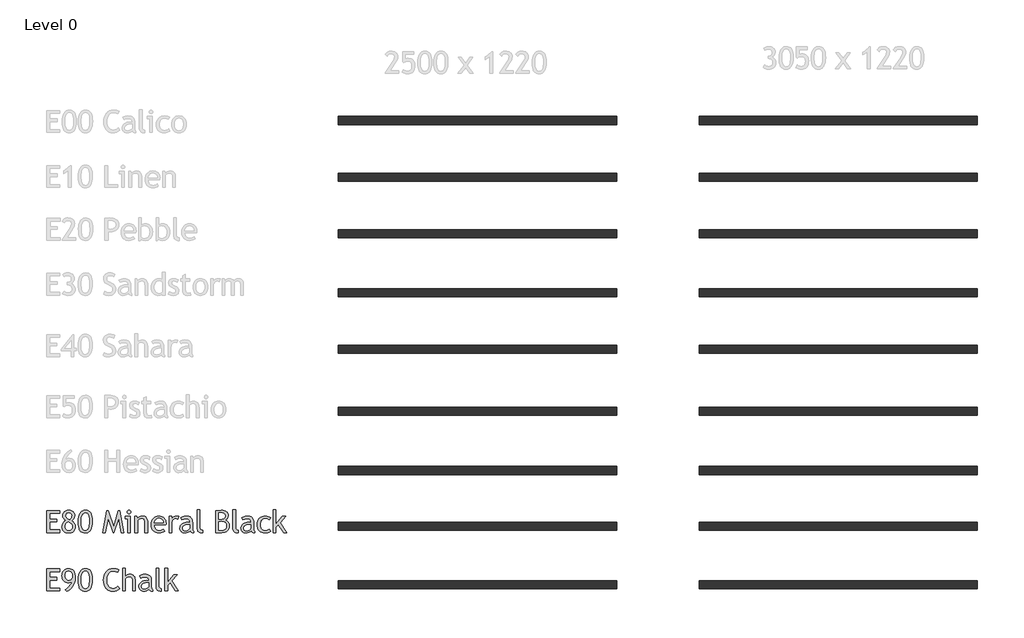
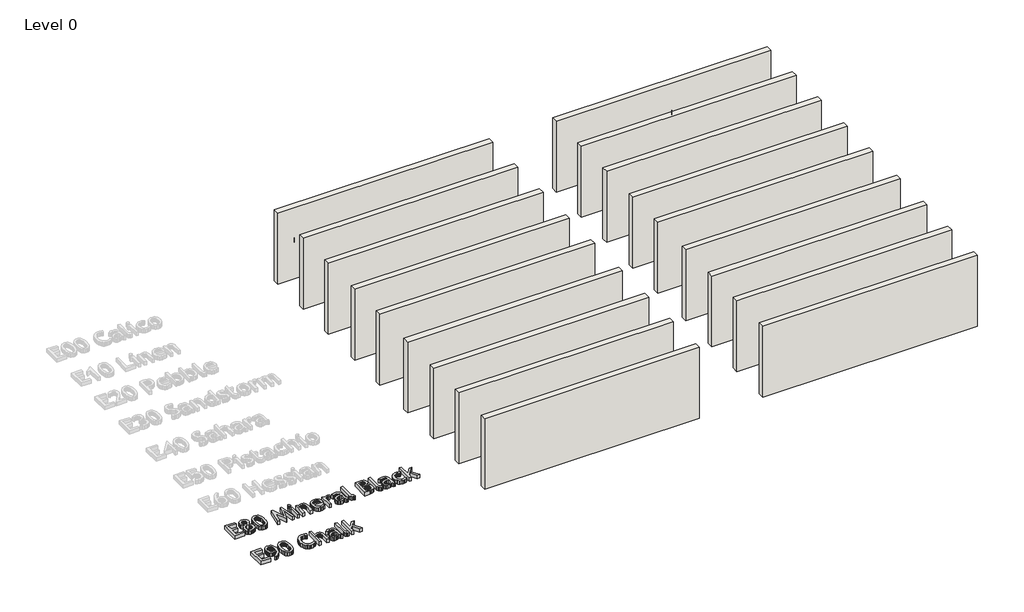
# One storey, part 1 of 5: 18 walls, 2 proxies.
"""IFC4 building model written with IfcOpenShell, lengths in millimetres."""

from ifc_helpers import new_model, si_unit, origin, origin_with_axes, place, context, project, spatial, polyline, outline, extrude, element, save

model = new_model("IFC4")

# Units and contexts
model_context = context("Model", 3, world=origin())
ifc_project = project(units=[si_unit("LENGTHUNIT", "METRE", prefix="MILLI")], contexts=[model_context])

# Site, building, storey
site = spatial("IfcSite", under=ifc_project)
building = spatial("IfcBuilding", under=site)
storey = spatial("IfcBuildingStorey", under=building, Name="Level 0", Elevation=0.0)

# Proxies
placement = place(None, origin())
element("IfcBuildingElementProxy", 1, Name="600mm Arial", ObjectType="600mm Arial", at=placement, inside=storey, context=model_context, shape_type="SweptSolid", body=[
    extrude(outline(polyline([(-18103.2260811, -7586.1895056), (-18103.2260811, -7764.1556073), (-17877.8023522, -7764.1556073), (-17877.8023522, -7847.2064547), (-18103.2260811, -7847.2064547), (-18103.2260811, -8096.3589971), (-17794.7515048, -8096.3589971), (-17794.7515048, -8179.4098446), (-18198.1413353, -8179.4098446), (-18198.1413353, -7503.1386581), (-17794.7515048, -7503.1386581), (-17794.7515048, -7586.1895056), (-18103.2260811, -7586.1895056)])), origin_with_axes(), (0.0, 0.0, 1.0), 150.0),
    extrude(outline(polyline([(-17569.327776, -8191.2742513), (-17616.7854031, -8143.8166242), (-17594.9625416, -8131.0948287), (-17568.6094232, -8108.8722386), (-17502.3124158, -8035.9246751), (-17468.8684606, -7992.5570241), (-17443.894116, -7954.4032238), (-17427.3893822, -7921.4632741), (-17419.354259, -7893.7371751), (-17440.1980752, -7909.7147307), (-17464.9117272, -7921.1272704), (-17493.4952151, -7927.9747942), (-17525.9485387, -7930.2573022), (-17568.499353, -7926.6481589), (-17606.6126012, -7915.8207291), (-17640.2882831, -7897.7750127), (-17669.5263989, -7872.5110098), (-17693.1683149, -7840.9208681), (-17710.0553978, -7803.8967354), (-17720.1876475, -7761.4386118), (-17723.5650641, -7713.5464971), (-17720.1065432, -7665.9324545), (-17709.7309804, -7623.1962587), (-17692.4383758, -7585.33791), (-17668.2287294, -7552.3574081), (-17638.8052323, -7525.633527), (-17605.8710758, -7506.5450405), (-17569.4262598, -7495.0919486), (-17529.4707844, -7491.2742513), (-17477.6364194, -7495.8856126), (-17432.713303, -7509.7196962), (-17394.7014353, -7532.7765024), (-17363.6008162, -7565.056031), (-17339.4114459, -7606.5582821), (-17322.1333242, -7657.2832556), (-17311.7664512, -7717.2309515), (-17308.3108268, -7786.40137), (-17313.542057, -7848.1275683), (-17329.2357474, -7910.5837058), (-17355.3918981, -7973.7697823), (-17392.010509, -8037.6857979), (-17434.480219, -8095.4958152), (-17478.1896669, -8140.3638965), (-17523.1388525, -8172.2900418), (-17569.327776, -8191.2742513)]), holes=[polyline([(-17403.2260811, -7716.1418361), (-17405.0741015, -7682.9035383), (-17410.6181626, -7654.0970135), (-17419.8582646, -7629.7222618), (-17432.7944073, -7609.7792831), (-17449.4265909, -7594.2680775), (-17469.7548152, -7583.1886449), (-17493.7790803, -7576.5409853), (-17521.4993861, -7574.3250988), (-17545.031232, -7576.6365726), (-17565.9445662, -7583.5709939), (-17584.2393888, -7595.1283628), (-17599.9156997, -7611.3086793), (-17612.4868729, -7631.2777272), (-17621.4662823, -7654.2012905), (-17626.853928, -7680.0793692), (-17628.6498099, -7708.9119632), (-17626.749651, -7738.8394658), (-17621.0491743, -7765.5923128), (-17611.5483798, -7789.170504), (-17598.2472675, -7809.5740395), (-17581.9568808, -7826.0382211), (-17563.4882633, -7837.7983509), (-17542.8414147, -7844.8544288), (-17520.0163353, -7847.2064547), (-17492.6436195, -7845.1585701), (-17468.9205991, -7839.0149161), (-17448.8472741, -7828.7754927), (-17432.4236446, -7814.4403001), (-17419.6497106, -7796.0093381), (-17410.5254719, -7773.4826067), (-17405.0509288, -7746.8601061), (-17403.2260811, -7716.1418361)])]), origin_with_axes(), (0.0, 0.0, 1.0), 150.0),
    extrude(outline(polyline([(-17225.2599794, -7821.9945903), (-17221.5581454, -7752.239062), (-17210.4526436, -7689.2383668), (-17191.9434738, -7632.9925048), (-17166.0306361, -7583.5014759), (-17133.4093107, -7543.1520652), (-17114.8436575, -7527.3005109), (-17094.7746775, -7514.3310575), (-17073.2023705, -7504.2437048), (-17050.1267365, -7497.0384529), (-16999.4654878, -7491.2742513), (-16949.5747304, -7496.0825802), (-16906.3113565, -7510.507567), (-16869.675366, -7534.5492116), (-16839.666759, -7568.207514), (-16816.3087082, -7613.8460866), (-16799.6243861, -7673.8285416), (-16789.6137929, -7748.154879), (-16786.2769285, -7836.8250988), (-16789.7760016, -7914.9285813), (-16800.2732209, -7984.2496221), (-16817.7685864, -8044.7882211), (-16842.262098, -8096.5443784), (-16873.4872701, -8137.9886978), (-16891.5242968, -8154.2703947), (-16911.1776171, -8167.5917831), (-16932.4472311, -8177.952863), (-16955.3331388, -8185.3536343), (-17005.9538353, -8191.2742513), (-17056.6382566, -8186.4948882), (-17100.7995715, -8172.156799), (-17138.4377799, -8148.2599836), (-17169.5528819, -8114.804442), (-17182.6092329, -8093.5015173), (-17193.924737, -8067.8276478), (-17211.333205, -8003.3670744), (-17221.7782858, -7921.4227219), (-17225.2599794, -7821.9945903)]), holes=[polyline([(-17130.3447251, -7830.5221327), (-17128.4996013, -7895.6083681), (-17122.9642299, -7952.0164388), (-17113.7386109, -7999.7463448), (-17100.8227442, -8038.7980861), (-17084.2166299, -8069.1716626), (-17063.920268, -8090.8670744), (-17039.9336585, -8103.8843215), (-17012.2568014, -8108.2234039), (-16980.7477641, -8104.3767407), (-16953.6994656, -8092.8367513), (-16931.111906, -8073.6034357), (-16912.9850853, -8046.6767937), (-16899.0756904, -8010.1219076), (-16889.1404084, -7962.0038594), (-16883.1792392, -7902.3226491), (-16881.1921828, -7831.0782768), (-16884.2509751, -7738.9669155), (-16893.4273522, -7675.0798657), (-16909.4164942, -7631.3762111), (-16920.2265445, -7614.0778133), (-16932.9135811, -7599.8150352), (-16947.4428448, -7588.663188), (-16963.7795768, -7580.6975829), (-16981.923777, -7575.9182198), (-17001.8754455, -7574.3250988), (-17031.9854329, -7578.3281774), (-17058.0807553, -7590.3374134), (-17080.1614128, -7610.3528067), (-17098.2274052, -7638.3743573), (-17112.2787327, -7674.4020652), (-17122.3153951, -7718.4359304), (-17128.3373926, -7770.4759529), (-17130.3447251, -7830.5221327)])]), origin_with_axes(), (0.0, 0.0, 1.0), 150.0),
    extrude(outline(polyline([(-15967.6328607, -7526.8674717), (-15999.7038353, -7606.210692), (-16025.8889518, -7592.260745), (-16058.6551065, -7582.2964971), (-16098.0022993, -7576.3179484), (-16143.9305302, -7574.3250988), (-16187.7152892, -7579.1218414), (-16226.9350323, -7593.5120691), (-16261.5897596, -7617.4957821), (-16291.6794709, -7651.0729801), (-16316.0107739, -7692.2160548), (-16333.390276, -7738.8973975), (-16343.8179772, -7791.1170082), (-16347.2938777, -7848.8748869), (-16343.7716319, -7903.9737018), (-16333.2048946, -7953.5921804), (-16315.5936658, -7997.7303226), (-16290.9379455, -8036.3881284), (-16260.7091981, -8067.8160614), (-16226.3788883, -8090.264585), (-16187.9470159, -8103.7336992), (-16145.4135811, -8108.2234039), (-16099.5664545, -8103.7858377), (-16059.3502866, -8090.473139), (-16024.7650774, -8068.285308), (-15995.8108268, -8037.2223446), (-15943.9040472, -8108.2234039), (-15987.5265975, -8144.5581496), (-16037.0118332, -8170.5115395), (-16092.3597543, -8186.0835734), (-16153.5703607, -8191.2742513), (-16217.1156136, -8185.2957026), (-16246.2161416, -8177.8225167), (-16273.5352707, -8167.3600564), (-16299.0730007, -8153.9083218), (-16322.8293319, -8137.4673128), (-16344.804264, -8118.0370294), (-16364.9977972, -8095.6174717), (-16398.7777561, -8043.9771777), (-16422.9062982, -7984.7130755), (-16437.3834235, -7917.825165), (-16442.2091319, -7843.3134462), (-16437.0126608, -7770.7829907), (-16421.4232474, -7704.648192), (-16395.4408917, -7644.9090501), (-16359.0655938, -7591.5655649), (-16337.5222526, -7568.0597883), (-16314.4639982, -7547.6881152), (-16289.8908305, -7530.4505457), (-16263.8027495, -7516.3470797), (-16236.1997553, -7505.3777173), (-16207.0818477, -7497.5424584), (-16176.449027, -7492.8413031), (-16144.3012929, -7491.2742513), (-16090.9230487, -7493.4988276), (-16043.685562, -7500.1725564), (-16002.5888326, -7511.2954378), (-15967.6328607, -7526.8674717)])), origin_with_axes(), (0.0, 0.0, 1.0), 150.0),
    extrude(outline(polyline([(-15540.5142167, -8179.4098446), (-15540.5142167, -7862.0369632), (-15542.2811327, -7835.2667368), (-15547.5818808, -7811.497371), (-15556.4164611, -7790.728866), (-15568.7848734, -7772.9612217), (-15584.3627005, -7758.7274094), (-15602.8255249, -7748.5604007), (-15624.1733467, -7742.4601955), (-15648.4061658, -7740.4267937), (-15681.6126012, -7745.2003636), (-15714.8653819, -7759.5210734), (-15744.2714995, -7780.1910946), (-15765.9379455, -7804.0125988), (-15765.9379455, -8179.4098446), (-15848.9887929, -8179.4098446), (-15848.9887929, -7479.4098446), (-15765.9379455, -7479.4098446), (-15765.9379455, -7733.1969208), (-15742.7189306, -7708.1704378), (-15708.6551065, -7687.5931073), (-15668.5200429, -7673.8285416), (-15627.0873099, -7669.240353), (-15589.5533785, -7672.5134926), (-15556.2948046, -7682.3329113), (-15527.3115882, -7698.6986091), (-15502.6037294, -7721.6105861), (-15482.8548218, -7750.1882807), (-15468.7484592, -7783.5511316), (-15460.2846417, -7821.6991388), (-15457.4633692, -7864.6323022), (-15457.4633692, -8179.4098446), (-15540.5142167, -8179.4098446)])), origin_with_axes(), (0.0, 0.0, 1.0), 150.0),
    extrude(outline(polyline([(-15034.423115, -8120.0878107), (-15065.3818014, -8151.2318784), (-15103.5703607, -8173.4776412), (-15148.9887929, -8186.8250988), (-15201.637098, -8191.2742513), (-15230.8462479, -8188.5862217), (-15258.0393755, -8180.5221327), (-15283.216481, -8167.0819844), (-15306.3775641, -8148.2657768), (-15325.7615021, -8125.4522836), (-15339.6071722, -8100.0202789), (-15347.9145742, -8071.9697625), (-15350.6837082, -8041.3007344), (-15346.4025575, -8004.5025352), (-15333.5591054, -7970.6704378), (-15312.153352, -7939.804442), (-15282.1852972, -7911.9045479), (-15245.5782725, -7888.7898101), (-15204.2556097, -7872.2792831), (-15158.2173085, -7862.3729669), (-15107.4633692, -7859.0708615), (-15076.7827548, -7862.0369632), (-15042.2091319, -7870.9352683), (-15043.9702548, -7843.1280649), (-15049.2536234, -7819.0284886), (-15058.0592378, -7798.6365395), (-15070.387098, -7781.9522174), (-15086.2372039, -7768.9755225), (-15105.6095556, -7759.7064547), (-15128.5041531, -7754.145014), (-15154.9209963, -7752.2912005), (-15195.7048946, -7754.5157768), (-15231.4834963, -7761.1895056), (-15262.2568014, -7772.3123869), (-15288.0248099, -7787.8844208), (-15326.9548946, -7716.6979801), (-15296.4596616, -7698.6001253), (-15256.1392167, -7683.2366454), (-15211.8794179, -7672.7394261), (-15169.5661234, -7669.240353), (-15118.1054177, -7672.3396976), (-15074.2105885, -7681.6377312), (-15037.8816359, -7697.1344539), (-15009.1185599, -7718.8298657), (-14987.2609394, -7747.2685244), (-14971.6483533, -7782.9949876), (-14962.2808017, -7826.0092553), (-14959.1582844, -7876.3113276), (-14959.1582844, -8055.9458615), (-14956.9337082, -8086.1166772), (-14950.2599794, -8110.8187429), (-14939.137098, -8130.0520585), (-14923.5650641, -8143.8166242), (-14923.5650641, -8191.2742513), (-14967.4772728, -8187.1495162), (-14998.7372039, -8174.7753107), (-15020.1255779, -8152.8539653), (-15034.423115, -8120.0878107)]), holes=[polyline([(-15042.2091319, -7930.2573022), (-15105.0534116, -7930.2573022), (-15139.2794444, -7932.3660151), (-15170.2149582, -7938.6921539), (-15197.8599529, -7949.2357185), (-15222.2144285, -7963.996709), (-15242.0849926, -7981.6426968), (-15256.2782527, -8000.8412534), (-15264.7942087, -8021.592379), (-15267.6328607, -8043.8960734), (-15266.0976714, -8061.7535118), (-15261.4921033, -8077.2299584), (-15253.8161565, -8090.3254133), (-15243.0698311, -8101.0398763), (-15229.2531269, -8109.3733476), (-15212.366044, -8115.3258271), (-15169.3807421, -8120.0878107), (-15134.5290472, -8115.6386581), (-15101.7165472, -8102.2912005), (-15070.9432421, -8080.0454378), (-15042.2091319, -8048.90137), (-15042.2091319, -7930.2573022)])]), origin_with_axes(), (0.0, 0.0, 1.0), 150.0),
    extrude(outline(polyline([(-14816.7854031, -8040.9299717), (-14816.7854031, -7479.4098446), (-14733.7345556, -7479.4098446), (-14733.7345556, -8022.7625988), (-14727.9877336, -8058.2399558), (-14720.8042061, -8072.8329444), (-14710.7472675, -8085.3288064), (-14698.373062, -8095.3451928), (-14684.2377336, -8102.4997545), (-14650.6837082, -8108.2234039), (-14650.6837082, -8191.2742513), (-14689.6137929, -8188.925122), (-14723.3531997, -8181.8777339), (-14751.9019285, -8170.132087), (-14775.2599794, -8153.6881814), (-14793.4273522, -8132.5460171), (-14806.4040472, -8106.705594), (-14814.1900641, -8076.1669122), (-14816.7854031, -8040.9299717)])), origin_with_axes(), (0.0, 0.0, 1.0), 150.0),
    extrude(outline(polyline([(-14223.5650641, -8179.4098446), (-14382.9930302, -7930.0719208), (-14460.8531997, -8009.6005225), (-14460.8531997, -8179.4098446), (-14543.9040472, -8179.4098446), (-14543.9040472, -7479.4098446), (-14460.8531997, -7479.4098446), (-14460.8531997, -7914.6852683), (-14271.0226912, -7681.1047598), (-14164.2430302, -7681.1047598), (-14325.1540472, -7870.3791242), (-14128.6498099, -8179.4098446), (-14223.5650641, -8179.4098446)])), origin_with_axes(), (0.0, 0.0, 1.0), 150.0),
])
element("IfcBuildingElementProxy", 2, Name="600mm Arial", ObjectType="600mm Arial", at=placement, inside=storey, context=model_context, shape_type="SweptSolid", body=[
    extrude(outline(polyline([(-18103.2260811, -5786.1895056), (-18103.2260811, -5964.1556073), (-17877.8023522, -5964.1556073), (-17877.8023522, -6047.2064547), (-18103.2260811, -6047.2064547), (-18103.2260811, -6296.3589971), (-17794.7515048, -6296.3589971), (-17794.7515048, -6379.4098446), (-18198.1413353, -6379.4098446), (-18198.1413353, -5703.1386581), (-17794.7515048, -5703.1386581), (-17794.7515048, -5786.1895056), (-18103.2260811, -5786.1895056)])), origin_with_axes(), (0.0, 0.0, 1.0), 150.0),
    extrude(outline(polyline([(-17602.140276, -6004.9395056), (-17641.2325694, -5977.2249929), (-17672.4925005, -5940.4267937), (-17684.4553912, -5919.5945638), (-17693.000313, -5898.4379166), (-17698.1272662, -5876.956852), (-17699.8362505, -5855.15137), (-17696.632629, -5819.3032503), (-17687.0217643, -5787.3944844), (-17671.0036565, -5759.4250723), (-17648.5783056, -5735.395014), (-17621.0781401, -5716.0921804), (-17589.8355885, -5702.304442), (-17554.8506507, -5694.031799), (-17516.1233268, -5691.2742513), (-17474.7485254, -5694.031799), (-17438.3095027, -5702.304442), (-17406.8062585, -5716.0921804), (-17380.2387929, -5735.395014), (-17359.1516637, -5759.448245), (-17344.0894285, -5787.4871751), (-17335.0520874, -5819.5118043), (-17332.0396404, -5855.5221327), (-17333.8471086, -5877.8721724), (-17339.2695133, -5900.4307662), (-17348.3068544, -5923.1979139), (-17360.9591319, -5946.1736157), (-17392.1958904, -5986.262334), (-17428.0671828, -6014.2085734), (-17399.9992868, -6031.9849074), (-17375.673777, -6051.1110495), (-17355.0906534, -6071.5869996), (-17338.2499158, -6093.4127577), (-17325.1515644, -6116.5883238), (-17315.7955991, -6141.1136978), (-17310.1820199, -6166.9888799), (-17308.3108268, -6194.21387), (-17311.8272794, -6238.4794619), (-17322.3766372, -6277.4732715), (-17339.9589002, -6311.1952987), (-17364.5740683, -6339.6455437), (-17395.3184076, -6362.2331033), (-17431.2881838, -6378.3670744), (-17472.483397, -6388.0474571), (-17518.9040472, -6391.2742513), (-17566.871473, -6388.1951829), (-17608.4432421, -6378.9579775), (-17643.6193544, -6363.5626352), (-17672.3998099, -6342.009156), (-17694.7846086, -6314.2975399), (-17710.7737505, -6280.4277868), (-17720.3672357, -6240.3998969), (-17723.5650641, -6194.21387), (-17721.38104, -6165.8736952), (-17714.8289677, -6137.7652471), (-17703.9088472, -6109.8885257), (-17688.6206785, -6082.243531), (-17670.1115088, -6056.7651809), (-17649.5283851, -6035.3883933), (-17626.8713075, -6018.1131682), (-17602.140276, -6004.9395056)]), holes=[polyline([(-17489.4284116, -5976.7615395), (-17462.0962479, -5947.3090765), (-17442.5732739, -5917.3468149), (-17430.8594894, -5886.8747545), (-17426.9548946, -5855.8928954), (-17428.5016703, -5838.2063554), (-17433.1419974, -5822.408388), (-17440.8758758, -5808.4989931), (-17451.7033056, -5796.4781708), (-17464.9986248, -5786.7862018), (-17480.1361711, -5779.8633668), (-17515.9379455, -5774.3250988), (-17554.8680302, -5779.4810177), (-17570.1619921, -5785.9259165), (-17582.6752336, -5794.9487746), (-17592.4077548, -5806.5495923), (-17599.3595556, -5820.7283694), (-17604.9209963, -5856.8198022), (-17603.1164247, -5872.0761085), (-17597.7027098, -5887.2571036), (-17576.0478501, -5917.3931602), (-17539.9564174, -5947.2279722), (-17489.4284116, -5976.7615395)]), polyline([(-17527.6169709, -6044.6111157), (-17571.8188379, -6074.1562693), (-17603.3916001, -6108.4749929), (-17614.4420669, -6127.4244433), (-17622.3352574, -6147.5672863), (-17627.0711718, -6168.9035217), (-17628.6498099, -6191.4331496), (-17626.7380646, -6215.2662402), (-17621.0028289, -6237.0833085), (-17611.4441028, -6256.8843546), (-17598.0618861, -6274.6693784), (-17581.6440498, -6289.3492646), (-17562.9784645, -6299.8348975), (-17542.0651303, -6306.1262773), (-17518.9040472, -6308.2234039), (-17494.8044709, -6306.1726226), (-17472.9294709, -6300.0202789), (-17453.2790472, -6289.7663726), (-17435.8531997, -6275.4109039), (-17421.5788353, -6257.8576067), (-17411.3828607, -6238.0102153), (-17405.265276, -6215.8687296), (-17403.2260811, -6191.4331496), (-17408.7643491, -6155.6082026), (-17425.3791531, -6121.9151412), (-17440.0764187, -6104.8484701), (-17462.0151436, -6086.2755755), (-17527.6169709, -6044.6111157)])]), origin_with_axes(), (0.0, 0.0, 1.0), 150.0),
    extrude(outline(polyline([(-17225.2599794, -6021.9945903), (-17221.5581454, -5952.239062), (-17210.4526436, -5889.2383668), (-17191.9434738, -5832.9925048), (-17166.0306361, -5783.5014759), (-17133.4093107, -5743.1520652), (-17114.8436575, -5727.3005109), (-17094.7746775, -5714.3310575), (-17073.2023705, -5704.2437048), (-17050.1267365, -5697.0384529), (-16999.4654878, -5691.2742513), (-16949.5747304, -5696.0825802), (-16906.3113565, -5710.507567), (-16869.675366, -5734.5492116), (-16839.666759, -5768.207514), (-16816.3087082, -5813.8460866), (-16799.6243861, -5873.8285416), (-16789.6137929, -5948.154879), (-16786.2769285, -6036.8250988), (-16789.7760016, -6114.9285813), (-16800.2732209, -6184.2496221), (-16817.7685864, -6244.7882211), (-16842.262098, -6296.5443784), (-16873.4872701, -6337.9886978), (-16891.5242968, -6354.2703947), (-16911.1776171, -6367.5917831), (-16932.4472311, -6377.952863), (-16955.3331388, -6385.3536343), (-17005.9538353, -6391.2742513), (-17056.6382566, -6386.4948882), (-17100.7995715, -6372.156799), (-17138.4377799, -6348.2599836), (-17169.5528819, -6314.804442), (-17182.6092329, -6293.5015173), (-17193.924737, -6267.8276478), (-17211.333205, -6203.3670744), (-17221.7782858, -6121.4227219), (-17225.2599794, -6021.9945903)]), holes=[polyline([(-17130.3447251, -6030.5221327), (-17128.4996013, -6095.6083681), (-17122.9642299, -6152.0164388), (-17113.7386109, -6199.7463448), (-17100.8227442, -6238.7980861), (-17084.2166299, -6269.1716626), (-17063.920268, -6290.8670744), (-17039.9336585, -6303.8843215), (-17012.2568014, -6308.2234039), (-16980.7477641, -6304.3767407), (-16953.6994656, -6292.8367513), (-16931.111906, -6273.6034357), (-16912.9850853, -6246.6767937), (-16899.0756904, -6210.1219076), (-16889.1404084, -6162.0038594), (-16883.1792392, -6102.3226491), (-16881.1921828, -6031.0782768), (-16884.2509751, -5938.9669155), (-16893.4273522, -5875.0798657), (-16909.4164942, -5831.3762111), (-16920.2265445, -5814.0778133), (-16932.9135811, -5799.8150352), (-16947.4428448, -5788.663188), (-16963.7795768, -5780.6975829), (-16981.923777, -5775.9182198), (-17001.8754455, -5774.3250988), (-17031.9854329, -5778.3281774), (-17058.0807553, -5790.3374134), (-17080.1614128, -5810.3528067), (-17098.2274052, -5838.3743573), (-17112.2787327, -5874.4020652), (-17122.3153951, -5918.4359304), (-17128.3373926, -5970.4759529), (-17130.3447251, -6030.5221327)])]), origin_with_axes(), (0.0, 0.0, 1.0), 150.0),
    extrude(outline(polyline([(-15896.44642, -6379.4098446), (-15973.5650641, -5940.4267937), (-16121.8701489, -6391.2742513), (-16145.5989624, -6391.2742513), (-16293.9040472, -5940.4267937), (-16382.887098, -6379.4098446), (-16465.9379455, -6379.4098446), (-16335.4294709, -5703.1386581), (-16287.9718438, -5703.1386581), (-16127.8023522, -6201.4437429), (-15991.3616743, -5703.1386581), (-15943.9040472, -5703.1386581), (-15813.3955726, -6379.4098446), (-15896.44642, -6379.4098446)])), origin_with_axes(), (0.0, 0.0, 1.0), 150.0),
    extrude(outline(polyline([(-15694.7515048, -6379.4098446), (-15694.7515048, -5952.2912005), (-15765.9379455, -5952.2912005), (-15765.9379455, -5881.1047598), (-15611.7006573, -5881.1047598), (-15611.7006573, -6379.4098446), (-15694.7515048, -6379.4098446)])), origin_with_axes(), (0.0, 0.0, 1.0), 150.0),
    extrude(outline(polyline([(-15653.4114624, -5691.2742513), (-15632.8109592, -5695.1904325), (-15615.5009751, -5706.9389759), (-15603.7524317, -5724.1562693), (-15599.8362505, -5744.4787005), (-15603.7524317, -5765.0792037), (-15615.5009751, -5782.3891878), (-15632.8109592, -5794.1377312), (-15653.4114624, -5798.0539123), (-15673.7338936, -5794.1377312), (-15690.951187, -5782.3891878), (-15702.6997304, -5765.0792037), (-15706.6159116, -5744.4787005), (-15702.7460758, -5723.9245426), (-15691.1365683, -5706.7535946), (-15673.9656203, -5695.1440871), (-15653.4114624, -5691.2742513)])), origin_with_axes(), (0.0, 0.0, 1.0), 150.0),
    extrude(outline(polyline([(-15160.8531997, -6379.4098446), (-15160.8531997, -6085.5803954), (-15162.3999754, -6048.2839839), (-15167.0403025, -6017.035639), (-15174.7741809, -5991.835361), (-15185.6016107, -5972.6831496), (-15200.0671496, -5958.5709939), (-15218.7153554, -5948.4908827), (-15241.546228, -5942.4428159), (-15268.5597675, -5940.4267937), (-15300.4453607, -5945.0149823), (-15333.8140048, -5958.7795479), (-15363.9848205, -5979.2641878), (-15386.2769285, -6004.0125988), (-15386.2769285, -6379.4098446), (-15469.327776, -6379.4098446), (-15469.327776, -5881.1047598), (-15409.449598, -5881.1047598), (-15381.6423946, -5945.0613276), (-15356.6043252, -5911.8896512), (-15324.683973, -5888.1955967), (-15285.8813379, -5873.9791639), (-15240.19642, -5869.240353), (-15202.1353104, -5872.3686634), (-15169.1490154, -5881.7535946), (-15141.237535, -5897.3951465), (-15118.4008692, -5919.2933191), (-15100.639018, -5947.4481126), (-15087.9519815, -5981.8595268), (-15080.3397596, -6022.5275617), (-15077.8023522, -6069.4522174), (-15077.8023522, -6379.4098446), (-15160.8531997, -6379.4098446)])), origin_with_axes(), (0.0, 0.0, 1.0), 150.0),
    extrude(outline(polyline([(-14515.3553183, -6142.121709), (-14876.107437, -6142.121709), (-14873.1181626, -6183.9483774), (-14864.1503395, -6220.6307132), (-14849.2039677, -6252.1687164), (-14828.2790472, -6278.5623869), (-14805.5582447, -6296.7297598), (-14779.8481679, -6309.7064547), (-14751.1488168, -6317.4924717), (-14719.4601912, -6320.0878107), (-14683.1254455, -6317.121709), (-14649.9421828, -6308.2234039), (-14619.9104031, -6293.3928954), (-14593.0301065, -6272.6301835), (-14555.7684539, -6331.9522174), (-14581.8145344, -6352.5295479), (-14618.798115, -6370.1407768), (-14675.0613565, -6385.9908827), (-14737.4421828, -6391.2742513), (-14782.8374423, -6387.2537932), (-14824.6641107, -6375.1924187), (-14862.922188, -6355.0901279), (-14897.6116743, -6326.9469208), (-14929.7289942, -6288.3991851), (-14952.669937, -6243.7570373), (-14966.4345027, -6193.0204775), (-14971.0226912, -6136.1895056), (-14966.307053, -6076.983335), (-14952.1601383, -6023.9410946), (-14928.5819471, -5977.0627842), (-14895.5724794, -5936.3484039), (-14860.2805037, -5906.9886316), (-14821.8833904, -5886.0173657), (-14780.3811393, -5873.4346062), (-14735.7737505, -5869.240353), (-14684.9329137, -5873.0754298), (-14639.9315895, -5884.5806602), (-14600.7697781, -5903.7560442), (-14567.4474794, -5930.6015818), (-14541.5751939, -5962.4871751), (-14523.09499, -5999.1926835), (-14512.0068676, -6040.7181073), (-14508.3108268, -6087.0634462), (-14510.0719497, -6115.7512111), (-14515.3553183, -6142.121709)]), holes=[polyline([(-14729.1000217, -5940.4267937), (-14758.3671033, -5943.068478), (-14785.1778819, -5950.993531), (-14809.5323575, -5964.2019526), (-14831.4305302, -5982.6937429), (-14849.0301727, -6004.0357715), (-14862.3428713, -6027.834103), (-14871.3686261, -6054.0887376), (-14876.107437, -6082.7996751), (-14591.3616743, -6082.7996751), (-14593.5167325, -6054.3668096), (-14599.9819073, -6028.3902471), (-14610.7571986, -6004.8699876), (-14625.8426065, -5983.806031), (-14646.5473867, -5964.8276147), (-14670.6585493, -5951.271603), (-14698.1760943, -5943.137996), (-14729.1000217, -5940.4267937)])]), origin_with_axes(), (0.0, 0.0, 1.0), 150.0),
    extrude(outline(polyline([(-14153.8616743, -5960.4479801), (-14182.9202018, -5945.4320903), (-14212.2568014, -5940.4267937), (-14235.22671, -5943.0742712), (-14256.6788088, -5951.0167037), (-14276.6130977, -5964.2540911), (-14295.0295768, -5982.7864335), (-14310.4799542, -6005.0495757), (-14321.515938, -6029.4793626), (-14328.1375284, -6056.075794), (-14330.3447251, -6084.83887), (-14330.3447251, -6379.4098446), (-14413.3955726, -6379.4098446), (-14413.3955726, -5881.1047598), (-14330.3447251, -5881.1047598), (-14330.3447251, -5952.2912005), (-14303.0125615, -5915.9564547), (-14269.7713671, -5890.0030649), (-14230.621142, -5874.431031), (-14185.5618861, -5869.240353), (-14116.7854031, -5877.2117513), (-14153.8616743, -5960.4479801)])), origin_with_axes(), (0.0, 0.0, 1.0), 150.0),
    extrude(outline(polyline([(-13764.9315895, -6320.0878107), (-13795.890276, -6351.2318784), (-13834.0788353, -6373.4776412), (-13879.4972675, -6386.8250988), (-13932.1455726, -6391.2742513), (-13961.3547225, -6388.5862217), (-13988.5478501, -6380.5221327), (-14013.7249555, -6367.0819844), (-14036.8860387, -6348.2657768), (-14056.2699767, -6325.4522836), (-14070.1156467, -6300.0202789), (-14078.4230487, -6271.9697625), (-14081.1921828, -6241.3007344), (-14076.9110321, -6204.5025352), (-14064.06758, -6170.6704378), (-14042.6618266, -6139.804442), (-14012.6937717, -6111.9045479), (-13976.0867471, -6088.7898101), (-13934.7640842, -6072.2792831), (-13888.7257831, -6062.3729669), (-13837.9718438, -6059.0708615), (-13807.2912294, -6062.0369632), (-13772.7176065, -6070.9352683), (-13774.4787294, -6043.1280649), (-13779.762098, -6019.0284886), (-13788.5677124, -5998.6365395), (-13800.8955726, -5981.9522174), (-13816.7456785, -5968.9755225), (-13836.1180302, -5959.7064547), (-13859.0126277, -5954.145014), (-13885.4294709, -5952.2912005), (-13926.2133692, -5954.5157768), (-13961.9919709, -5961.1895056), (-13992.765276, -5972.3123869), (-14018.5332844, -5987.8844208), (-14057.4633692, -5916.6979801), (-14026.9681361, -5898.6001253), (-13986.6476912, -5883.2366454), (-13942.3878925, -5872.7394261), (-13900.074598, -5869.240353), (-13848.6138922, -5872.3396976), (-13804.719063, -5881.6377312), (-13768.3901105, -5897.1344539), (-13739.6270344, -5918.8298657), (-13717.769414, -5947.2685244), (-13702.1568279, -5982.9949876), (-13692.7892762, -6026.0092553), (-13689.666759, -6076.3113276), (-13689.666759, -6255.9458615), (-13687.4421828, -6286.1166772), (-13680.7684539, -6310.8187429), (-13669.6455726, -6330.0520585), (-13654.0735387, -6343.8166242), (-13654.0735387, -6391.2742513), (-13697.9857474, -6387.1495162), (-13729.2456785, -6374.7753107), (-13750.6340525, -6352.8539653), (-13764.9315895, -6320.0878107)]), holes=[polyline([(-13772.7176065, -6130.2573022), (-13835.5618861, -6130.2573022), (-13869.787919, -6132.3660151), (-13900.7234328, -6138.6921539), (-13928.3684275, -6149.2357185), (-13952.7229031, -6163.996709), (-13972.5934672, -6181.6426968), (-13986.7867272, -6200.8412534), (-13995.3026833, -6221.592379), (-13998.1413353, -6243.8960734), (-13996.6061459, -6261.7535118), (-13992.0005779, -6277.2299584), (-13984.3246311, -6290.3254133), (-13973.5783056, -6301.0398763), (-13959.7616015, -6309.3733476), (-13942.8745186, -6315.3258271), (-13899.8892167, -6320.0878107), (-13865.0375217, -6315.6386581), (-13832.2250217, -6302.2912005), (-13801.4517167, -6280.0454378), (-13772.7176065, -6248.90137), (-13772.7176065, -6130.2573022)])]), origin_with_axes(), (0.0, 0.0, 1.0), 150.0),
    extrude(outline(polyline([(-13547.2938777, -6240.9299717), (-13547.2938777, -5679.4098446), (-13464.2430302, -5679.4098446), (-13464.2430302, -6222.7625988), (-13458.4962082, -6258.2399558), (-13451.3126806, -6272.8329444), (-13441.2557421, -6285.3288064), (-13428.8815366, -6295.3451928), (-13414.7462082, -6302.4997545), (-13381.1921828, -6308.2234039), (-13381.1921828, -6391.2742513), (-13420.1222675, -6388.925122), (-13453.8616743, -6381.8777339), (-13482.4104031, -6370.132087), (-13505.7684539, -6353.6881814), (-13523.9358268, -6332.5460171), (-13536.9125217, -6306.705594), (-13544.6985387, -6276.1669122), (-13547.2938777, -6240.9299717)])), origin_with_axes(), (0.0, 0.0, 1.0), 150.0),
    extrude(outline(polyline([(-12785.5618861, -6379.4098446), (-12977.8023522, -6379.4098446), (-12977.8023522, -5697.2064547), (-12798.3531997, -5691.2742513), (-12750.6059142, -5693.9854537), (-12708.5822781, -5702.1190607), (-12672.2822913, -5715.6750723), (-12641.7059539, -5734.6534886), (-12617.4557553, -5758.6835469), (-12600.1341849, -5787.3944844), (-12589.7412426, -5820.7863011), (-12586.2769285, -5858.8589971), (-12588.5884023, -5881.9737349), (-12595.5228236, -5904.0457026), (-12607.0801926, -5925.0749002), (-12623.260509, -5945.0613276), (-12642.2331322, -5962.7073154), (-12662.1674211, -5976.7151941), (-12683.0633758, -5987.0849637), (-12704.9209963, -5993.8166242), (-12667.3407196, -6005.2407503), (-12635.2407792, -6019.8627047), (-12608.6211751, -6037.6824876), (-12587.4819073, -6058.7000988), (-12571.3826952, -6083.3674055), (-12559.883258, -6112.1362746), (-12552.9835956, -6145.0067063), (-12550.6837082, -6181.9787005), (-12554.7505117, -6224.7496552), (-12566.9509222, -6262.9671804), (-12587.2849396, -6296.631276), (-12615.7525641, -6325.741942), (-12650.7664677, -6349.2216494), (-12690.7393226, -6365.9928689), (-12735.6711287, -6376.0556006), (-12785.5618861, -6379.4098446)]), holes=[polyline([(-12882.887098, -5774.3250988), (-12882.887098, -5961.3748869), (-12811.3298946, -5964.1556073), (-12780.8288684, -5962.5508999), (-12754.3946457, -5957.7367778), (-12732.0272265, -5949.713241), (-12713.7266107, -5938.4802895), (-12699.4927985, -5924.0379232), (-12689.3257897, -5906.3861422), (-12683.2255845, -5885.5249465), (-12681.1921828, -5861.4543361), (-12683.0604792, -5840.2947922), (-12688.6653687, -5821.9565209), (-12698.0068511, -5806.4395221), (-12711.0849264, -5793.7437958), (-12727.8995947, -5783.869342), (-12748.450856, -5776.8161608), (-12772.7387102, -5772.584252), (-12800.7631573, -5771.1736157), (-12882.887098, -5774.3250988)]), polyline([(-12882.887098, -6037.5666242), (-12882.887098, -6303.58887), (-12810.5883692, -6308.2234039), (-12770.5633758, -6306.1262773), (-12736.3199635, -6299.8348975), (-12707.8581322, -6289.3492646), (-12685.1778819, -6274.6693784), (-12667.8621046, -6255.4128901), (-12655.4936923, -6231.1974505), (-12648.0726449, -6202.0230596), (-12645.5989624, -6167.8897174), (-12647.9567815, -6136.1837124), (-12655.0302389, -6108.9152736), (-12666.8193345, -6086.084401), (-12683.3240683, -6067.6910946), (-12705.3438975, -6053.5383867), (-12733.6782792, -6043.4293096), (-12768.3272132, -6037.3638634), (-12809.2906997, -6035.3420479), (-12882.887098, -6037.5666242)])]), origin_with_axes(), (0.0, 0.0, 1.0), 150.0),
    extrude(outline(polyline([(-12443.9040472, -6240.9299717), (-12443.9040472, -5679.4098446), (-12360.8531997, -5679.4098446), (-12360.8531997, -6222.7625988), (-12355.1063777, -6258.2399558), (-12347.9228501, -6272.8329444), (-12337.8659116, -6285.3288064), (-12325.4917061, -6295.3451928), (-12311.3563777, -6302.4997545), (-12277.8023522, -6308.2234039), (-12277.8023522, -6391.2742513), (-12316.732437, -6388.925122), (-12350.4718438, -6381.8777339), (-12379.0205726, -6370.132087), (-12402.3786234, -6353.6881814), (-12420.5459963, -6332.5460171), (-12433.5226912, -6306.705594), (-12441.3087082, -6276.1669122), (-12443.9040472, -6240.9299717)])), origin_with_axes(), (0.0, 0.0, 1.0), 150.0),
    extrude(outline(polyline([(-11878.4909116, -6320.0878107), (-11909.449598, -6351.2318784), (-11947.6381573, -6373.4776412), (-11993.0565895, -6386.8250988), (-12045.7048946, -6391.2742513), (-12074.9140445, -6388.5862217), (-12102.1071722, -6380.5221327), (-12127.2842776, -6367.0819844), (-12150.4453607, -6348.2657768), (-12169.8292987, -6325.4522836), (-12183.6749688, -6300.0202789), (-12191.9823708, -6271.9697625), (-12194.7515048, -6241.3007344), (-12190.4703541, -6204.5025352), (-12177.626902, -6170.6704378), (-12156.2211486, -6139.804442), (-12126.2530938, -6111.9045479), (-12089.6460691, -6088.7898101), (-12048.3234063, -6072.2792831), (-12002.2851052, -6062.3729669), (-11951.5311658, -6059.0708615), (-11920.8505514, -6062.0369632), (-11886.2769285, -6070.9352683), (-11888.0380514, -6043.1280649), (-11893.32142, -6019.0284886), (-11902.1270344, -5998.6365395), (-11914.4548946, -5981.9522174), (-11930.3050005, -5968.9755225), (-11949.6773522, -5959.7064547), (-11972.5719497, -5954.145014), (-11998.9887929, -5952.2912005), (-12039.7726912, -5954.5157768), (-12075.5512929, -5961.1895056), (-12106.324598, -5972.3123869), (-12132.0926065, -5987.8844208), (-12171.0226912, -5916.6979801), (-12140.5274582, -5898.6001253), (-12100.2070133, -5883.2366454), (-12055.9472145, -5872.7394261), (-12013.63392, -5869.240353), (-11962.1732143, -5872.3396976), (-11918.2783851, -5881.6377312), (-11881.9494325, -5897.1344539), (-11853.1863565, -5918.8298657), (-11831.328736, -5947.2685244), (-11815.7161499, -5982.9949876), (-11806.3485983, -6026.0092553), (-11803.2260811, -6076.3113276), (-11803.2260811, -6255.9458615), (-11801.0015048, -6286.1166772), (-11794.327776, -6310.8187429), (-11783.2048946, -6330.0520585), (-11767.6328607, -6343.8166242), (-11767.6328607, -6391.2742513), (-11811.5450694, -6387.1495162), (-11842.8050005, -6374.7753107), (-11864.1933745, -6352.8539653), (-11878.4909116, -6320.0878107)]), holes=[polyline([(-11886.2769285, -6130.2573022), (-11949.1212082, -6130.2573022), (-11983.347241, -6132.3660151), (-12014.2827548, -6138.6921539), (-12041.9277495, -6149.2357185), (-12066.2822251, -6163.996709), (-12086.1527892, -6181.6426968), (-12100.3460493, -6200.8412534), (-12108.8620053, -6221.592379), (-12111.7006573, -6243.8960734), (-12110.165468, -6261.7535118), (-12105.5598999, -6277.2299584), (-12097.8839531, -6290.3254133), (-12087.1376277, -6301.0398763), (-12073.3209235, -6309.3733476), (-12056.4338406, -6315.3258271), (-12013.4485387, -6320.0878107), (-11978.5968438, -6315.6386581), (-11945.7843438, -6302.2912005), (-11915.0110387, -6280.0454378), (-11886.2769285, -6248.90137), (-11886.2769285, -6130.2573022)])]), origin_with_axes(), (0.0, 0.0, 1.0), 150.0),
    extrude(outline(polyline([(-11281.1921828, -5916.6979801), (-11325.6837082, -5976.020014), (-11344.5230885, -5963.5762905), (-11373.9755514, -5951.8277471), (-11408.4333109, -5943.2770321), (-11442.2885811, -5940.4267937), (-11477.0128263, -5943.6825538), (-11507.9599264, -5953.449834), (-11535.1298814, -5969.7286343), (-11558.5226912, -5992.5189547), (-11577.3388989, -6020.9749929), (-11590.7790472, -6054.2509462), (-11598.8431361, -6092.3468149), (-11601.5311658, -6135.2625988), (-11598.8083771, -6177.7149293), (-11590.6400111, -6214.7912005), (-11577.0260678, -6246.4914123), (-11557.9665472, -6272.8155649), (-11534.0755249, -6293.4971724), (-11505.9670768, -6308.2697492), (-11473.6412029, -6317.1332953), (-11437.0979031, -6320.0878107), (-11407.0892961, -6317.121709), (-11376.9416531, -6308.2234039), (-11346.6549741, -6293.3928954), (-11316.229259, -6272.6301835), (-11281.1921828, -6343.8166242), (-11319.2880514, -6364.5793361), (-11361.6476912, -6379.4098446), (-11408.2711022, -6388.3081496), (-11459.1582844, -6391.2742513), (-11508.3712413, -6386.9583416), (-11553.1234592, -6374.0106126), (-11593.4149383, -6352.4310641), (-11629.2456785, -6322.2196962), (-11658.6460029, -6284.6394195), (-11679.6462347, -6240.9531443), (-11692.2463737, -6191.1608708), (-11696.44642, -6135.2625988), (-11692.0551992, -6078.0724505), (-11678.8815366, -6026.8145056), (-11656.9254322, -5981.488764), (-11626.1868861, -5942.0952259), (-11587.8245318, -5910.221219), (-11542.9970027, -5887.4540712), (-11491.7042987, -5873.7937826), (-11433.94642, -5869.240353), (-11393.000313, -5873.1101888), (-11348.763687, -5884.7196962), (-11308.9298681, -5900.4539388), (-11281.1921828, -5916.6979801)])), origin_with_axes(), (0.0, 0.0, 1.0), 150.0),
    extrude(outline(polyline([(-10877.8023522, -6379.4098446), (-11037.2303183, -6130.0719208), (-11115.0904878, -6209.6005225), (-11115.0904878, -6379.4098446), (-11198.1413353, -6379.4098446), (-11198.1413353, -5679.4098446), (-11115.0904878, -5679.4098446), (-11115.0904878, -6114.6852683), (-10925.2599794, -5881.1047598), (-10818.4803183, -5881.1047598), (-10979.3913353, -6070.3791242), (-10782.887098, -6379.4098446), (-10877.8023522, -6379.4098446)])), origin_with_axes(), (0.0, 0.0, 1.0), 150.0),
])

# Walls
element("IfcWall", 3, ObjectType="Tectiva E00 2500 x 1220 TB SF", at=placement, inside=storey, context=model_context, shape_type="SweptSolid", body=[
    extrude(outline(polyline([(-9185.6161857, 6474.3886902), (-585.6161857, 6474.3886902), (-585.6161857, 6225.3886902), (-9185.6161857, 6225.3886902), (-9185.6161857, 6474.3886902)])), origin_with_axes(), (0.0, 0.0, 1.0), 3000.0),
])
element("IfcWall", 4, ObjectType="Tectiva E10 2500 x 1220 TB SF", at=placement, inside=storey, context=model_context, shape_type="SweptSolid", body=[
    extrude(outline(polyline([(-585.6161857, 4477.3886902), (-9185.6161857, 4477.3886902), (-9185.6161857, 4726.3886902), (-585.6161857, 4726.3886902), (-585.6161857, 4477.3886902)])), origin_with_axes(), (0.0, 0.0, 1.0), 3000.0),
])
element("IfcWall", 5, ObjectType="Tectiva E20 2500 x 1220 TB SF", at=placement, inside=storey, context=model_context, shape_type="SweptSolid", body=[
    extrude(outline(polyline([(-585.6161857, 2729.3886902), (-9185.6161857, 2729.3886902), (-9185.6161857, 2978.3886902), (-585.6161857, 2978.3886902), (-585.6161857, 2729.3886902)])), origin_with_axes(), (0.0, 0.0, 1.0), 3000.0),
])
element("IfcWall", 6, ObjectType="Tectiva E30 2500 x 1220 TB SF", at=placement, inside=storey, context=model_context, shape_type="SweptSolid", body=[
    extrude(outline(polyline([(-585.6161857, 906.3886902), (-9185.6161857, 906.3886902), (-9185.6161857, 1155.3886902), (-585.6161857, 1155.3886902), (-585.6161857, 906.3886902)])), origin_with_axes(), (0.0, 0.0, 1.0), 3000.0),
])
element("IfcWall", 7, ObjectType="Tectiva E40 2500 x 1220 TB SF", at=placement, inside=storey, context=model_context, shape_type="SweptSolid", body=[
    extrude(outline(polyline([(-9185.6161857, -590.6113098), (-585.6161857, -590.6113098), (-585.6161857, -839.6113098), (-9185.6161857, -839.6113098), (-9185.6161857, -590.6113098)])), origin_with_axes(), (0.0, 0.0, 1.0), 3000.0),
])
element("IfcWall", 8, ObjectType="Tectiva E50 2500 x 1220 TB SF", at=placement, inside=storey, context=model_context, shape_type="SweptSolid", body=[
    extrude(outline(polyline([(-9185.6161857, -2513.6113098), (-585.6161857, -2513.6113098), (-585.6161857, -2762.6113098), (-9185.6161857, -2762.6113098), (-9185.6161857, -2513.6113098)])), origin_with_axes(), (0.0, 0.0, 1.0), 3000.0),
])
element("IfcWall", 9, ObjectType="Tectiva E60 2500 x 1220 TB SF", at=placement, inside=storey, context=model_context, shape_type="SweptSolid", body=[
    extrude(outline(polyline([(-9185.6161857, -4336.6113098), (-585.6161857, -4336.6113098), (-585.6161857, -4585.6113098), (-9185.6161857, -4585.6113098), (-9185.6161857, -4336.6113098)])), origin_with_axes(), (0.0, 0.0, 1.0), 3000.0),
])
element("IfcWall", 10, ObjectType="Tectiva E90 2500 x 1220 TB SF", at=placement, inside=storey, context=model_context, shape_type="SweptSolid", body=[
    extrude(outline(polyline([(-9185.6161857, -7861.3713352), (-585.6161857, -7861.3713352), (-585.6161857, -8110.3713352), (-9185.6161857, -8110.3713352), (-9185.6161857, -7861.3713352)])), origin_with_axes(), (0.0, 0.0, 1.0), 3000.0),
])
element("IfcWall", 11, ObjectType="Tectiva E00 3050 x 1220 TB SF", at=placement, inside=storey, context=model_context, shape_type="SweptSolid", body=[
    extrude(outline(polyline([(10555.4069174, 6225.3886902), (1955.4069174, 6225.3886902), (1955.4069174, 6474.3886902), (10555.4069174, 6474.3886902), (10555.4069174, 6225.3886902)])), origin_with_axes(), (0.0, 0.0, 1.0), 3000.0),
])
element("IfcWall", 12, ObjectType="Tectiva E10 3050 x 1220 TB SF", at=placement, inside=storey, context=model_context, shape_type="SweptSolid", body=[
    extrude(outline(polyline([(10555.4069174, 4477.3886902), (1955.4069174, 4477.3886902), (1955.4069174, 4726.3886902), (10555.4069174, 4726.3886902), (10555.4069174, 4477.3886902)])), origin_with_axes(), (0.0, 0.0, 1.0), 3000.0),
])
element("IfcWall", 13, ObjectType="Tectiva E20 3050 x 1220 TB SF", at=placement, inside=storey, context=model_context, shape_type="SweptSolid", body=[
    extrude(outline(polyline([(10555.4069174, 2729.3886902), (1955.4069174, 2729.3886902), (1955.4069174, 2978.3886902), (10555.4069174, 2978.3886902), (10555.4069174, 2729.3886902)])), origin_with_axes(), (0.0, 0.0, 1.0), 3000.0),
])
element("IfcWall", 14, ObjectType="Tectiva E30 3050 x 1220 TB SF", at=placement, inside=storey, context=model_context, shape_type="SweptSolid", body=[
    extrude(outline(polyline([(10555.4069174, 906.3886902), (1955.4069174, 906.3886902), (1955.4069174, 1155.3886902), (10555.4069174, 1155.3886902), (10555.4069174, 906.3886902)])), origin_with_axes(), (0.0, 0.0, 1.0), 3000.0),
])
element("IfcWall", 15, ObjectType="Tectiva E40 3050 x 1220 TB SF", at=placement, inside=storey, context=model_context, shape_type="SweptSolid", body=[
    extrude(outline(polyline([(10555.4069174, -839.6113098), (1955.4069174, -839.6113098), (1955.4069174, -590.6113098), (10555.4069174, -590.6113098), (10555.4069174, -839.6113098)])), origin_with_axes(), (0.0, 0.0, 1.0), 3000.0),
])
element("IfcWall", 16, ObjectType="Tectiva E50 3050 x 1220 TB SF", at=placement, inside=storey, context=model_context, shape_type="SweptSolid", body=[
    extrude(outline(polyline([(10555.4069174, -2762.6113098), (1955.4069174, -2762.6113098), (1955.4069174, -2513.6113098), (10555.4069174, -2513.6113098), (10555.4069174, -2762.6113098)])), origin_with_axes(), (0.0, 0.0, 1.0), 3000.0),
])
element("IfcWall", 17, ObjectType="Tectiva E60 3050 x 1220 TB SF", at=placement, inside=storey, context=model_context, shape_type="SweptSolid", body=[
    extrude(outline(polyline([(10555.4069174, -4585.6113098), (1955.4069174, -4585.6113098), (1955.4069174, -4336.6113098), (10555.4069174, -4336.6113098), (10555.4069174, -4585.6113098)])), origin_with_axes(), (0.0, 0.0, 1.0), 3000.0),
])
element("IfcWall", 18, ObjectType="Tectiva E90 3050 x 1220 TB SF", at=placement, inside=storey, context=model_context, shape_type="SweptSolid", body=[
    extrude(outline(polyline([(10555.4069174, -8110.3713352), (1955.4069174, -8110.3713352), (1955.4069174, -7861.3713352), (10555.4069174, -7861.3713352), (10555.4069174, -8110.3713352)])), origin_with_axes(), (0.0, 0.0, 1.0), 3000.0),
])
element("IfcWall", 19, ObjectType="Tectiva E80 2500 x 1220 TB SF", at=placement, inside=storey, context=model_context, shape_type="SweptSolid", body=[
    extrude(outline(polyline([(-9185.6161857, -6061.3713352), (-585.6161857, -6061.3713352), (-585.6161857, -6310.3713352), (-9185.6161857, -6310.3713352), (-9185.6161857, -6061.3713352)])), origin_with_axes(), (0.0, 0.0, 1.0), 3000.0),
])
element("IfcWall", 20, ObjectType="Tectiva E80 3050 x 1220 TB SF", at=placement, inside=storey, context=model_context, shape_type="SweptSolid", body=[
    extrude(outline(polyline([(10555.4069174, -6310.3713352), (1955.4069174, -6310.3713352), (1955.4069174, -6061.3713352), (10555.4069174, -6061.3713352), (10555.4069174, -6310.3713352)])), origin_with_axes(), (0.0, 0.0, 1.0), 3000.0),
])

save(model, "model.ifc")
